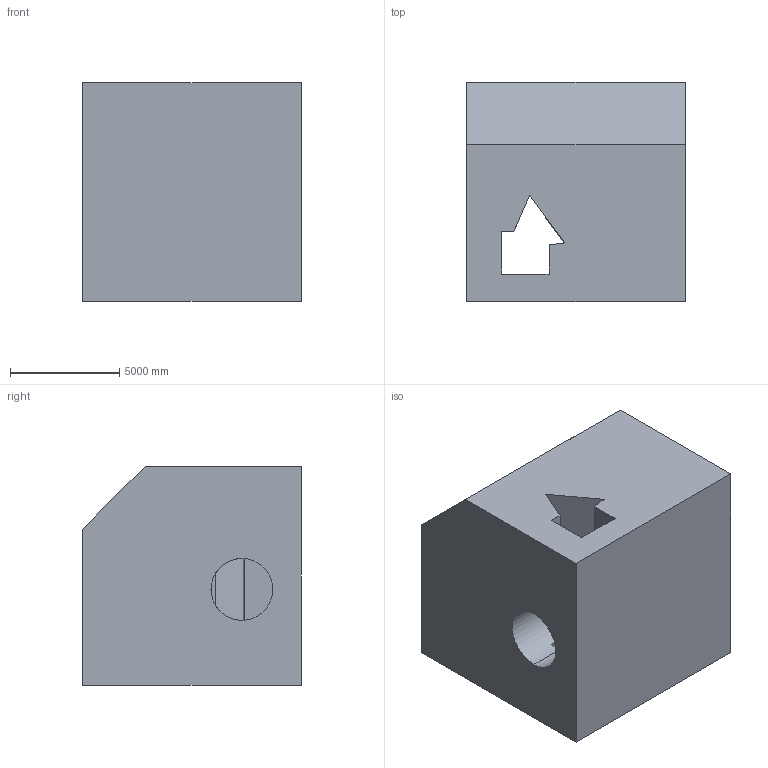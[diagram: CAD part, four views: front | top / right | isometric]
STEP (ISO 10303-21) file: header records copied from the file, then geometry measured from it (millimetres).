
FILE_DESCRIPTION (( 'STEP AP203' ), '1' );
FILE_NAME ('1444.STEP', '2022-08-18T14:30:47', ( 'user' ), ( '' ), 'SwSTEP 2.0', 'SolidWorks 2021', '' );
FILE_SCHEMA (( 'CONFIG_CONTROL_DESIGN' ));
Length unit declared in the file: centimetre
Products named in the file (1): 1444
Bounding box: 10000 x 10000 x 10000 mm (x, y, z)
Volume: 883573590818.8 mm3; surface area: 679454325.5 mm2
Topology: 1 solids, 1 shells, 22 faces, 63 edges, 42 vertices
Faces by surface type: plane 18, cylinder 4
Entity records: 802 total; most frequent: CARTESIAN_POINT 134, ORIENTED_EDGE 126, DIRECTION 117, EDGE_CURVE 63, VECTOR 51, LINE 51, VERTEX_POINT 42, AXIS2_PLACEMENT_3D 33
